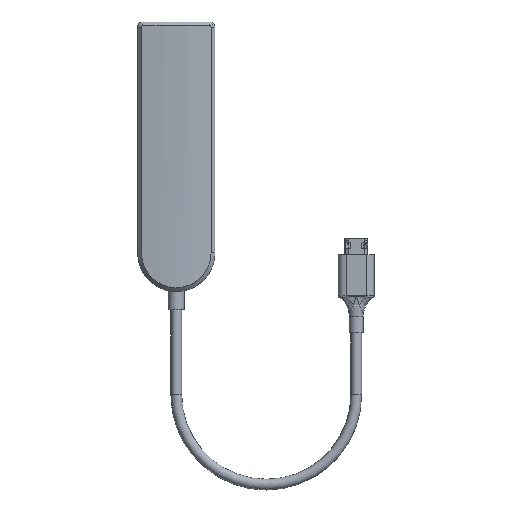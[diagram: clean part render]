
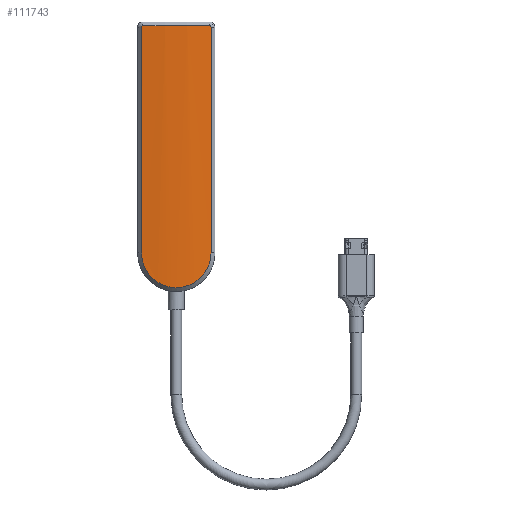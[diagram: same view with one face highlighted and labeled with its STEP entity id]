
A CAD part, front view. The second image highlights one B-rep face of the part: STEP entity #111743.
In plain terms, the highlighted cylindrical face has radius 113 mm (diameter 226 mm), a partial arc.
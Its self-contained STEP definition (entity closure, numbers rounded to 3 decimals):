
#4165=B_SPLINE_CURVE_WITH_KNOTS('',3,(#181074,#181075,#181076,#181077),
 .UNSPECIFIED.,.F.,.F.,(4,4),(0.89,0.907),
 .UNSPECIFIED.);
#4166=B_SPLINE_CURVE_WITH_KNOTS('',3,(#181079,#181080,#181081,#181082,#181083,
#181084,#181085,#181086,#181087,#181088),.UNSPECIFIED.,.F.,.F.,(4,2,2,2,
4),(0.605,0.68,0.755,0.831,
0.89),.UNSPECIFIED.);
#4167=B_SPLINE_CURVE_WITH_KNOTS('',3,(#181092,#181093,#181094,#181095,#181096,
#181097,#181098,#181099,#181100,#181101,#181102,#181103,#181104,#181105,
#181106,#181107,#181108,#181109,#181110),.UNSPECIFIED.,.F.,.F.,(4,1,1,1,
1,1,1,1,1,1,1,1,1,1,1,1,4),(0.,0.647,0.97,
1.293,1.616,1.94,2.182,2.344,
2.586,2.667,2.91,3.233,3.556,
3.799,3.879,4.203,4.526),
 .UNSPECIFIED.);
#4168=B_SPLINE_CURVE_WITH_KNOTS('',3,(#181114,#181115,#181116,#181117,#181118,
#181119,#181120,#181121,#181122,#181123),.UNSPECIFIED.,.F.,.F.,(4,2,2,2,
4),(0.924,0.983,1.059,1.134,
1.209),.UNSPECIFIED.);
#4169=B_SPLINE_CURVE_WITH_KNOTS('',3,(#181124,#181125,#181126,#181127),
 .UNSPECIFIED.,.F.,.F.,(4,4),(0.907,0.924),
 .UNSPECIFIED.);
#7639=FACE_OUTER_BOUND('',#13522,.T.);
#13522=EDGE_LOOP('',(#92749,#92750,#92751,#92752,#92753,#92754,#92755,#92756));
#23530=LINE('',#181090,#35459);
#23531=LINE('',#181112,#35460);
#35459=VECTOR('',#146498,10.);
#35460=VECTOR('',#146499,10.);
#43513=CIRCLE('',#121311,113.);
#52031=VERTEX_POINT('',#181070);
#52032=VERTEX_POINT('',#181071);
#52033=VERTEX_POINT('',#181073);
#52034=VERTEX_POINT('',#181078);
#52035=VERTEX_POINT('',#181089);
#52036=VERTEX_POINT('',#181091);
#52037=VERTEX_POINT('',#181111);
#52038=VERTEX_POINT('',#181113);
#66565=EDGE_CURVE('',#52031,#52032,#43513,.T.);
#66566=EDGE_CURVE('',#52033,#52031,#4165,.T.);
#66567=EDGE_CURVE('',#52034,#52033,#4166,.T.);
#66568=EDGE_CURVE('',#52035,#52034,#23530,.T.);
#66569=EDGE_CURVE('',#52036,#52035,#4167,.T.);
#66570=EDGE_CURVE('',#52037,#52036,#23531,.T.);
#66571=EDGE_CURVE('',#52038,#52037,#4168,.T.);
#66572=EDGE_CURVE('',#52032,#52038,#4169,.T.);
#92749=ORIENTED_EDGE('',*,*,#66565,.F.);
#92750=ORIENTED_EDGE('',*,*,#66566,.F.);
#92751=ORIENTED_EDGE('',*,*,#66567,.F.);
#92752=ORIENTED_EDGE('',*,*,#66568,.F.);
#92753=ORIENTED_EDGE('',*,*,#66569,.F.);
#92754=ORIENTED_EDGE('',*,*,#66570,.F.);
#92755=ORIENTED_EDGE('',*,*,#66571,.F.);
#92756=ORIENTED_EDGE('',*,*,#66572,.F.);
#107694=CYLINDRICAL_SURFACE('',#121310,113.);
#111743=ADVANCED_FACE('',(#7639),#107694,.T.);
#121310=AXIS2_PLACEMENT_3D('',#181069,#146494,#146495);
#121311=AXIS2_PLACEMENT_3D('',#181072,#146496,#146497);
#146494=DIRECTION('center_axis',(0.,0.,-1.));
#146495=DIRECTION('ref_axis',(-0.133,-0.991,0.));
#146496=DIRECTION('center_axis',(0.,0.,1.));
#146497=DIRECTION('ref_axis',(-0.133,-0.991,0.));
#146498=DIRECTION('',(0.,0.,1.));
#146499=DIRECTION('',(0.,0.,-1.));
#181069=CARTESIAN_POINT('Origin',(0.,107.,44.9));
#181070=CARTESIAN_POINT('',(-13.,-5.25,43.4));
#181071=CARTESIAN_POINT('',(13.,-5.25,43.4));
#181072=CARTESIAN_POINT('Origin',(0.,107.,43.4));
#181073=CARTESIAN_POINT('',(-13.045,-5.244,43.398));
#181074=CARTESIAN_POINT('Ctrl Pts',(-13.045,-5.244,
43.398));
#181075=CARTESIAN_POINT('Ctrl Pts',(-13.03,-5.246,
43.399));
#181076=CARTESIAN_POINT('Ctrl Pts',(-13.015,-5.248,
43.4));
#181077=CARTESIAN_POINT('Ctrl Pts',(-13.,-5.25,43.4));
#181078=CARTESIAN_POINT('',(-13.512,-5.189,42.9));
#181079=CARTESIAN_POINT('Ctrl Pts',(-13.512,-5.189,
42.9));
#181080=CARTESIAN_POINT('Ctrl Pts',(-13.512,-5.189,
42.961));
#181081=CARTESIAN_POINT('Ctrl Pts',(-13.5,-5.191,
43.026));
#181082=CARTESIAN_POINT('Ctrl Pts',(-13.45,-5.197,
43.148));
#181083=CARTESIAN_POINT('Ctrl Pts',(-13.411,-5.201,43.204));
#181084=CARTESIAN_POINT('Ctrl Pts',(-13.321,-5.212,
43.294));
#181085=CARTESIAN_POINT('Ctrl Pts',(-13.263,-5.219,
43.334));
#181086=CARTESIAN_POINT('Ctrl Pts',(-13.15,-5.232,
43.381));
#181087=CARTESIAN_POINT('Ctrl Pts',(-13.097,-5.238,
43.394));
#181088=CARTESIAN_POINT('Ctrl Pts',(-13.045,-5.244,
43.398));
#181089=CARTESIAN_POINT('',(-13.512,-5.189,-44.9));
#181090=CARTESIAN_POINT('',(-13.512,-5.189,44.9));
#181091=CARTESIAN_POINT('',(13.512,-5.189,-44.9));
#181092=CARTESIAN_POINT('Ctrl Pts',(13.512,-5.189,
-44.9));
#181093=CARTESIAN_POINT('Ctrl Pts',(13.512,-5.189,
-46.838));
#181094=CARTESIAN_POINT('Ctrl Pts',(12.841,-5.275,-49.957));
#181095=CARTESIAN_POINT('Ctrl Pts',(10.6,-5.507,
-53.434));
#181096=CARTESIAN_POINT('Ctrl Pts',(8.547,-5.684,
-55.493));
#181097=CARTESIAN_POINT('Ctrl Pts',(5.928,-5.856,
-57.164));
#181098=CARTESIAN_POINT('Ctrl Pts',(3.232,-5.964,-58.1));
#181099=CARTESIAN_POINT('Ctrl Pts',(0.967,-6.001,
-58.408));
#181100=CARTESIAN_POINT('Ctrl Pts',(-0.967,-6.001,
-58.407));
#181101=CARTESIAN_POINT('Ctrl Pts',(-2.477,-5.976,
-58.204));
#181102=CARTESIAN_POINT('Ctrl Pts',(-4.212,-5.925,
-57.758));
#181103=CARTESIAN_POINT('Ctrl Pts',(-6.147,-5.842,
-57.026));
#181104=CARTESIAN_POINT('Ctrl Pts',(-8.544,-5.685,
-55.493));
#181105=CARTESIAN_POINT('Ctrl Pts',(-10.428,-5.522,
-53.61));
#181106=CARTESIAN_POINT('Ctrl Pts',(-11.583,-5.406,
-51.911));
#181107=CARTESIAN_POINT('Ctrl Pts',(-12.527,-5.305,
-50.089));
#181108=CARTESIAN_POINT('Ctrl Pts',(-13.3,-5.215,
-47.882));
#181109=CARTESIAN_POINT('Ctrl Pts',(-13.512,-5.189,
-45.869));
#181110=CARTESIAN_POINT('Ctrl Pts',(-13.512,-5.189,
-44.9));
#181111=CARTESIAN_POINT('',(13.512,-5.189,42.9));
#181112=CARTESIAN_POINT('',(13.512,-5.189,44.9));
#181113=CARTESIAN_POINT('',(13.045,-5.244,43.398));
#181114=CARTESIAN_POINT('Ctrl Pts',(13.045,-5.244,
43.398));
#181115=CARTESIAN_POINT('Ctrl Pts',(13.097,-5.238,
43.394));
#181116=CARTESIAN_POINT('Ctrl Pts',(13.15,-5.232,
43.381));
#181117=CARTESIAN_POINT('Ctrl Pts',(13.263,-5.219,
43.334));
#181118=CARTESIAN_POINT('Ctrl Pts',(13.321,-5.212,
43.294));
#181119=CARTESIAN_POINT('Ctrl Pts',(13.411,-5.201,
43.204));
#181120=CARTESIAN_POINT('Ctrl Pts',(13.45,-5.197,
43.148));
#181121=CARTESIAN_POINT('Ctrl Pts',(13.5,-5.191,
43.026));
#181122=CARTESIAN_POINT('Ctrl Pts',(13.512,-5.189,
42.961));
#181123=CARTESIAN_POINT('Ctrl Pts',(13.512,-5.189,
42.9));
#181124=CARTESIAN_POINT('Ctrl Pts',(13.,-5.25,43.4));
#181125=CARTESIAN_POINT('Ctrl Pts',(13.015,-5.248,
43.4));
#181126=CARTESIAN_POINT('Ctrl Pts',(13.03,-5.246,
43.399));
#181127=CARTESIAN_POINT('Ctrl Pts',(13.045,-5.244,
43.398));
